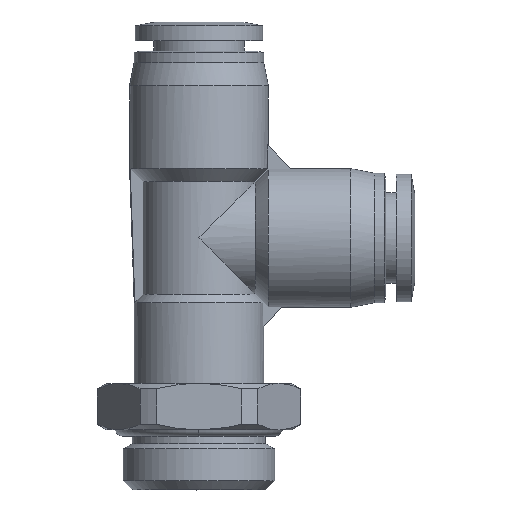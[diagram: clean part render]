
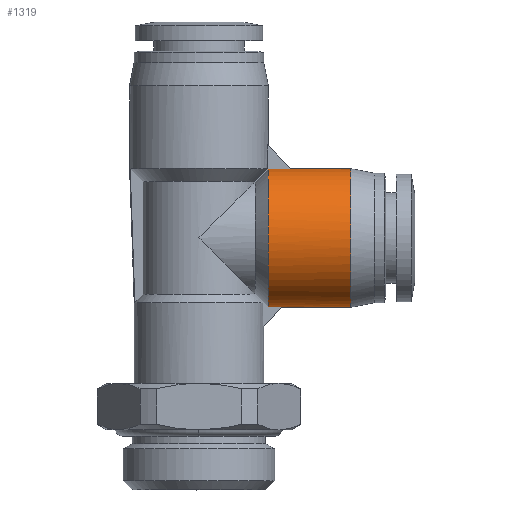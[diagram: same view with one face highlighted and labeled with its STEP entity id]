
A CAD part, top view. The second image highlights one B-rep face of the part: STEP entity #1319.
In plain terms, the highlighted cylindrical face has radius 7.5 mm (diameter 15 mm), a partial arc.
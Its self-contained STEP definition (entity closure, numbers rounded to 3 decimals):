
#57 = CARTESIAN_POINT ( 'NONE',  ( 16.45, 20.359, 5.998 ) ) ;
#73 = ORIENTED_EDGE ( 'NONE', *, *, #5114, .F. ) ;
#91 = CARTESIAN_POINT ( 'NONE',  ( 16.45, 8.25, 0.982 ) ) ;
#138 = CARTESIAN_POINT ( 'NONE',  ( 7.5, 23.063, 1.89 ) ) ;
#312 = B_SPLINE_CURVE_WITH_KNOTS ( 'NONE', 3,
 ( #1962, #1088, #3779, #1029 ),
 .UNSPECIFIED., .F., .F.,
 ( 4, 4 ),
 ( 0., 1. ),
 .UNSPECIFIED. ) ;
#407 = CARTESIAN_POINT ( 'NONE',  ( 7.5, 16.648, 7.5 ) ) ;
#408 = FACE_OUTER_BOUND ( 'NONE', #5671, .T. ) ;
#613 = CARTESIAN_POINT ( 'NONE',  ( 10., 23.25, 0.334 ) ) ;
#710 = VERTEX_POINT ( 'NONE', #4466 ) ;
#733 = ORIENTED_EDGE ( 'NONE', *, *, #2423, .T. ) ;
#743 = CARTESIAN_POINT ( 'NONE',  ( 9.022, 8.272, 0.667 ) ) ;
#826 = CARTESIAN_POINT ( 'NONE',  ( 7.5, 9.568, 4.341 ) ) ;
#831 = CARTESIAN_POINT ( 'NONE',  ( 7.5, 23.183, 1. ) ) ;
#858 = CARTESIAN_POINT ( 'NONE',  ( 10.067, 23.183, 1. ) ) ;
#887 = CARTESIAN_POINT ( 'NONE',  ( 16.45, 11.141, 5.998 ) ) ;
#914 = CARTESIAN_POINT ( 'NONE',  ( 16.45, 23.055, 1.963 ) ) ;
#974 = CARTESIAN_POINT ( 'NONE',  ( 16.45, 8.445, 1.963 ) ) ;
#1024 = CARTESIAN_POINT ( 'NONE',  ( 7.5, 23.183, 1. ) ) ;
#1028 = CARTESIAN_POINT ( 'NONE',  ( 16.45, 23.25, 0. ) ) ;
#1029 = CARTESIAN_POINT ( 'NONE',  ( 7.5, 8.317, 1. ) ) ;
#1088 = CARTESIAN_POINT ( 'NONE',  ( 8.545, 8.317, 1. ) ) ;
#1131 = CARTESIAN_POINT ( 'NONE',  ( 9.067, 8.317, 1. ) ) ;
#1135 = LINE ( 'NONE', #3765, #3872 ) ;
#1163 = CARTESIAN_POINT ( 'NONE',  ( 9., 8.25, 0.333 ) ) ;
#1298 = CARTESIAN_POINT ( 'NONE',  ( 7.5, 13.954, 7.337 ) ) ;
#1319 = ADVANCED_FACE ( 'NONE', ( #408 ), #1812, .T. ) ;
#1324 = DIRECTION ( 'NONE',  ( 1., 0., 0. ) ) ;
#1357 = CARTESIAN_POINT ( 'NONE',  ( 16.45, 22.303, 3.777 ) ) ;
#1413 = CARTESIAN_POINT ( 'NONE',  ( 16.45, 23.25, 0. ) ) ;
#1616 = ORIENTED_EDGE ( 'NONE', *, *, #4417, .T. ) ;
#1667 = LINE ( 'NONE', #3515, #3935 ) ;
#1699 = CARTESIAN_POINT ( 'NONE',  ( 7.5, 10.137, 5.055 ) ) ;
#1704 = CARTESIAN_POINT ( 'NONE',  ( 9.211, 23.183, 1. ) ) ;
#1788 = CARTESIAN_POINT ( 'NONE',  ( 16.45, 8.25, 0. ) ) ;
#1801 = CARTESIAN_POINT ( 'NONE',  ( 16.45, 8.25, 0. ) ) ;
#1812 = CYLINDRICAL_SURFACE ( 'NONE', #2333, 7.5 ) ;
#1828 = B_SPLINE_CURVE_WITH_KNOTS ( 'NONE', 3,
 ( #1024, #138, #2806, #4597, #1929, #3984, #2083, #4365, #407, #3433, #1298, #5732, #5236, #1699, #826, #4424, #4395, #3518 ),
 .UNSPECIFIED., .F., .F.,
 ( 4, 2, 2, 2, 2, 2, 2, 2, 4 ),
 ( 0., 0.125, 0.25, 0.375, 0.5, 0.625, 0.75, 0.875, 1. ),
 .UNSPECIFIED. ) ;
#1876 = CARTESIAN_POINT ( 'NONE',  ( 16.45, 21.748, 4.609 ) ) ;
#1929 = CARTESIAN_POINT ( 'NONE',  ( 7.5, 21.363, 5.055 ) ) ;
#1949 = DIRECTION ( 'NONE',  ( 1., 0., 0. ) ) ;
#1962 = CARTESIAN_POINT ( 'NONE',  ( 9.067, 8.317, 1. ) ) ;
#1996 = VERTEX_POINT ( 'NONE', #1028 ) ;
#2083 = CARTESIAN_POINT ( 'NONE',  ( 7.5, 19.228, 6.705 ) ) ;
#2179 = CARTESIAN_POINT ( 'NONE',  ( 8.356, 23.183, 1. ) ) ;
#2181 = EDGE_CURVE ( 'NONE', #4088, #3115, #1135, .T. ) ;
#2233 = CARTESIAN_POINT ( 'NONE',  ( 16.45, 9.197, 3.777 ) ) ;
#2328 = VERTEX_POINT ( 'NONE', #858 ) ;
#2333 = AXIS2_PLACEMENT_3D ( 'NONE', #5347, #1324, #3131 ) ;
#2423 = EDGE_CURVE ( 'NONE', #2328, #2753, #3711, .T. ) ;
#2428 = CARTESIAN_POINT ( 'NONE',  ( 10., 23.25, 0. ) ) ;
#2488 = EDGE_CURVE ( 'NONE', #1996, #3115, #3502, .T. ) ;
#2696 = ORIENTED_EDGE ( 'NONE', *, *, #5355, .F. ) ;
#2726 = CARTESIAN_POINT ( 'NONE',  ( 16.45, 9.752, 4.609 ) ) ;
#2753 = VERTEX_POINT ( 'NONE', #3159 ) ;
#2806 = CARTESIAN_POINT ( 'NONE',  ( 7.5, 22.782, 2.758 ) ) ;
#2844 = CARTESIAN_POINT ( 'NONE',  ( 10.067, 23.183, 1. ) ) ;
#2862 = CARTESIAN_POINT ( 'NONE',  ( 9., 8.25, 0. ) ) ;
#2893 = EDGE_CURVE ( 'NONE', #710, #3428, #312, .T. ) ;
#3112 = CARTESIAN_POINT ( 'NONE',  ( 16.45, 14.768, 7.5 ) ) ;
#3115 = VERTEX_POINT ( 'NONE', #1801 ) ;
#3131 = DIRECTION ( 'NONE',  ( 0., 1., 0. ) ) ;
#3159 = CARTESIAN_POINT ( 'NONE',  ( 7.5, 23.183, 1. ) ) ;
#3160 = B_SPLINE_CURVE_WITH_KNOTS ( 'NONE', 3,
 ( #3672, #1163, #743, #1131 ),
 .UNSPECIFIED., .F., .F.,
 ( 4, 4 ),
 ( 0.5, 1. ),
 .UNSPECIFIED. ) ;
#3167 = CARTESIAN_POINT ( 'NONE',  ( 16.45, 11.973, 6.553 ) ) ;
#3266 = VERTEX_POINT ( 'NONE', #2428 ) ;
#3428 = VERTEX_POINT ( 'NONE', #4957 ) ;
#3433 = CARTESIAN_POINT ( 'NONE',  ( 7.5, 14.852, 7.5 ) ) ;
#3502 = B_SPLINE_CURVE_WITH_KNOTS ( 'NONE', 3,
 ( #1413, #4075, #914, #1357, #1876, #57, #4486, #4021, #5824, #3112, #5471, #3167, #887, #2726, #2233, #974, #91, #1788 ),
 .UNSPECIFIED., .F., .F.,
 ( 4, 2, 2, 2, 2, 2, 2, 2, 4 ),
 ( 0., 0.063, 0.125, 0.188, 0.25, 0.313, 0.375, 0.438, 0.5 ),
 .UNSPECIFIED. ) ;
#3515 = CARTESIAN_POINT ( 'NONE',  ( 11.975, 23.25, 0. ) ) ;
#3518 = CARTESIAN_POINT ( 'NONE',  ( 7.5, 8.317, 1. ) ) ;
#3672 = CARTESIAN_POINT ( 'NONE',  ( 9., 8.25, 0. ) ) ;
#3711 = B_SPLINE_CURVE_WITH_KNOTS ( 'NONE', 3,
 ( #3936, #1704, #2179, #831 ),
 .UNSPECIFIED., .F., .F.,
 ( 4, 4 ),
 ( 0., 1. ),
 .UNSPECIFIED. ) ;
#3738 = B_SPLINE_CURVE_WITH_KNOTS ( 'NONE', 3,
 ( #5613, #613, #4727, #2844 ),
 .UNSPECIFIED., .F., .F.,
 ( 4, 4 ),
 ( 0.5, 1. ),
 .UNSPECIFIED. ) ;
#3765 = CARTESIAN_POINT ( 'NONE',  ( 11.975, 8.25, 0. ) ) ;
#3779 = CARTESIAN_POINT ( 'NONE',  ( 8.022, 8.317, 1. ) ) ;
#3872 = VECTOR ( 'NONE', #1949, 1000. ) ;
#3935 = VECTOR ( 'NONE', #4895, 1000. ) ;
#3936 = CARTESIAN_POINT ( 'NONE',  ( 10.067, 23.183, 1. ) ) ;
#3980 = ORIENTED_EDGE ( 'NONE', *, *, #2181, .T. ) ;
#3984 = CARTESIAN_POINT ( 'NONE',  ( 7.5, 20.011, 6.237 ) ) ;
#4021 = CARTESIAN_POINT ( 'NONE',  ( 16.45, 17.713, 7.305 ) ) ;
#4024 = ORIENTED_EDGE ( 'NONE', *, *, #2488, .F. ) ;
#4075 = CARTESIAN_POINT ( 'NONE',  ( 16.45, 23.25, 0.982 ) ) ;
#4088 = VERTEX_POINT ( 'NONE', #2862 ) ;
#4365 = CARTESIAN_POINT ( 'NONE',  ( 7.5, 17.546, 7.337 ) ) ;
#4391 = ORIENTED_EDGE ( 'NONE', *, *, #2893, .F. ) ;
#4395 = CARTESIAN_POINT ( 'NONE',  ( 7.5, 8.437, 1.89 ) ) ;
#4417 = EDGE_CURVE ( 'NONE', #3266, #2328, #3738, .T. ) ;
#4424 = CARTESIAN_POINT ( 'NONE',  ( 7.5, 8.718, 2.758 ) ) ;
#4443 = ORIENTED_EDGE ( 'NONE', *, *, #4724, .T. ) ;
#4466 = CARTESIAN_POINT ( 'NONE',  ( 9.067, 8.317, 1. ) ) ;
#4486 = CARTESIAN_POINT ( 'NONE',  ( 16.45, 19.527, 6.553 ) ) ;
#4597 = CARTESIAN_POINT ( 'NONE',  ( 7.5, 21.932, 4.341 ) ) ;
#4724 = EDGE_CURVE ( 'NONE', #2753, #3428, #1828, .T. ) ;
#4727 = CARTESIAN_POINT ( 'NONE',  ( 10.022, 23.228, 0.668 ) ) ;
#4895 = DIRECTION ( 'NONE',  ( 1., 0., 0. ) ) ;
#4957 = CARTESIAN_POINT ( 'NONE',  ( 7.5, 8.317, 1. ) ) ;
#5114 = EDGE_CURVE ( 'NONE', #4088, #710, #3160, .T. ) ;
#5236 = CARTESIAN_POINT ( 'NONE',  ( 7.5, 11.489, 6.237 ) ) ;
#5347 = CARTESIAN_POINT ( 'NONE',  ( 11.975, 15.75, 0. ) ) ;
#5355 = EDGE_CURVE ( 'NONE', #3266, #1996, #1667, .T. ) ;
#5471 = CARTESIAN_POINT ( 'NONE',  ( 16.45, 13.787, 7.305 ) ) ;
#5613 = CARTESIAN_POINT ( 'NONE',  ( 10., 23.25, 0. ) ) ;
#5671 = EDGE_LOOP ( 'NONE', ( #73, #3980, #4024, #2696, #1616, #733, #4443, #4391 ) ) ;
#5732 = CARTESIAN_POINT ( 'NONE',  ( 7.5, 12.272, 6.705 ) ) ;
#5824 = CARTESIAN_POINT ( 'NONE',  ( 16.45, 16.732, 7.5 ) ) ;
